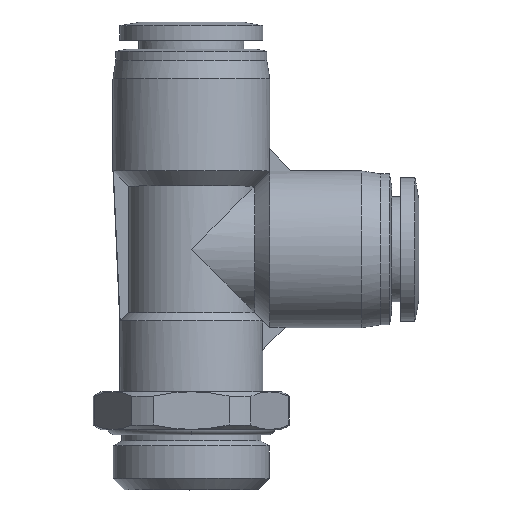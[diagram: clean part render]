
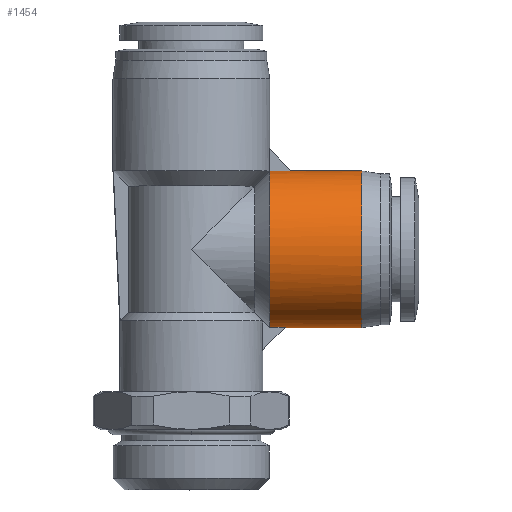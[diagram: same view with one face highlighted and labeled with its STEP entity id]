
A CAD part, top view. The second image highlights one B-rep face of the part: STEP entity #1454.
In plain terms, the highlighted cylindrical face has radius 10.4 mm (diameter 20.8 mm), a partial arc.
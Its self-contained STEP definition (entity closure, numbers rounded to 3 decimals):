
#115 = CARTESIAN_POINT ( 'NONE',  ( 13.348, 29.252, 1. ) ) ;
#252 = CARTESIAN_POINT ( 'NONE',  ( 13.348, 29.252, 1. ) ) ;
#346 = CARTESIAN_POINT ( 'NONE',  ( 22.6, 29.3, 0. ) ) ;
#455 = CARTESIAN_POINT ( 'NONE',  ( 22.6, 21.622, 10.129 ) ) ;
#480 = CARTESIAN_POINT ( 'NONE',  ( 12.416, 8.516, 0.667 ) ) ;
#486 = CARTESIAN_POINT ( 'NONE',  ( 22.6, 24.138, 9.087 ) ) ;
#533 = CARTESIAN_POINT ( 'NONE',  ( 12.448, 8.548, 1. ) ) ;
#603 = CARTESIAN_POINT ( 'NONE',  ( 16.5, 29.3, 0. ) ) ;
#643 = VECTOR ( 'NONE', #4381, 1000. ) ;
#752 = CARTESIAN_POINT ( 'NONE',  ( 11.383, 29.252, 1. ) ) ;
#914 = CARTESIAN_POINT ( 'NONE',  ( 13.316, 29.284, 0.667 ) ) ;
#916 = CARTESIAN_POINT ( 'NONE',  ( 22.6, 13.662, 9.087 ) ) ;
#941 = CARTESIAN_POINT ( 'NONE',  ( 12.4, 8.5, 0. ) ) ;
#947 = CARTESIAN_POINT ( 'NONE',  ( 13.348, 29.252, 1. ) ) ;
#1140 = ORIENTED_EDGE ( 'NONE', *, *, #2922, .T. ) ;
#1142 = CARTESIAN_POINT ( 'NONE',  ( 10.4, 8.548, 1. ) ) ;
#1150 = CARTESIAN_POINT ( 'NONE',  ( 12.365, 29.252, 1. ) ) ;
#1169 = EDGE_CURVE ( 'NONE', #1504, #4308, #1500, .T. ) ;
#1181 = B_SPLINE_CURVE_WITH_KNOTS ( 'NONE', 3,
 ( #941, #3289, #480, #4258 ),
 .UNSPECIFIED., .F., .F.,
 ( 4, 4 ),
 ( 0.5, 1. ),
 .UNSPECIFIED. ) ;
#1299 = CARTESIAN_POINT ( 'NONE',  ( 10.4, 29.252, 1. ) ) ;
#1426 = CARTESIAN_POINT ( 'NONE',  ( 10.4, 13.96, 9.241 ) ) ;
#1454 = ADVANCED_FACE ( 'NONE', ( #2358 ), #5553, .T. ) ;
#1500 = B_SPLINE_CURVE_WITH_KNOTS ( 'NONE', 3,
 ( #533, #4313, #5524, #1142 ),
 .UNSPECIFIED., .F., .F.,
 ( 4, 4 ),
 ( 0., 1. ),
 .UNSPECIFIED. ) ;
#1504 = VERTEX_POINT ( 'NONE', #3395 ) ;
#1645 = CARTESIAN_POINT ( 'NONE',  ( 22.6, 8.5, 0. ) ) ;
#1848 = CARTESIAN_POINT ( 'NONE',  ( 13.3, 29.3, 0.334 ) ) ;
#1852 = CARTESIAN_POINT ( 'NONE',  ( 12.4, 8.5, 0. ) ) ;
#2118 = AXIS2_PLACEMENT_3D ( 'NONE', #2296, #4245, #6140 ) ;
#2147 = CARTESIAN_POINT ( 'NONE',  ( 10.4, 24.945, 8.558 ) ) ;
#2296 = CARTESIAN_POINT ( 'NONE',  ( 16.5, 18.9, 0. ) ) ;
#2300 = VERTEX_POINT ( 'NONE', #1852 ) ;
#2358 = FACE_OUTER_BOUND ( 'NONE', #2665, .T. ) ;
#2379 = CARTESIAN_POINT ( 'NONE',  ( 22.6, 16.178, 10.129 ) ) ;
#2494 = EDGE_CURVE ( 'NONE', #2300, #5806, #3197, .T. ) ;
#2653 = CARTESIAN_POINT ( 'NONE',  ( 16.5, 8.5, 0. ) ) ;
#2661 = EDGE_CURVE ( 'NONE', #2300, #1504, #1181, .T. ) ;
#2665 = EDGE_LOOP ( 'NONE', ( #5519, #6046, #3306, #4883, #2790, #4774, #1140, #3215 ) ) ;
#2778 = CARTESIAN_POINT ( 'NONE',  ( 22.6, 8.771, 2.722 ) ) ;
#2790 = ORIENTED_EDGE ( 'NONE', *, *, #4371, .T. ) ;
#2801 = EDGE_CURVE ( 'NONE', #5019, #5150, #4350, .T. ) ;
#2826 = VERTEX_POINT ( 'NONE', #4474 ) ;
#2842 = CARTESIAN_POINT ( 'NONE',  ( 22.6, 25.291, 8.317 ) ) ;
#2867 = CARTESIAN_POINT ( 'NONE',  ( 22.6, 20.261, 10.4 ) ) ;
#2922 = EDGE_CURVE ( 'NONE', #2826, #4308, #5627, .T. ) ;
#3077 = DIRECTION ( 'NONE',  ( 1., 0., 0. ) ) ;
#3103 = CARTESIAN_POINT ( 'NONE',  ( 13.3, 29.3, 0. ) ) ;
#3108 = VECTOR ( 'NONE', #3077, 1000. ) ;
#3192 = CARTESIAN_POINT ( 'NONE',  ( 10.4, 29.129, 2.272 ) ) ;
#3197 = LINE ( 'NONE', #2653, #3108 ) ;
#3215 = ORIENTED_EDGE ( 'NONE', *, *, #1169, .F. ) ;
#3233 = CARTESIAN_POINT ( 'NONE',  ( 22.6, 27.217, 6.391 ) ) ;
#3262 = CARTESIAN_POINT ( 'NONE',  ( 13.3, 29.3, 0. ) ) ;
#3289 = CARTESIAN_POINT ( 'NONE',  ( 12.4, 8.5, 0.333 ) ) ;
#3306 = ORIENTED_EDGE ( 'NONE', *, *, #4664, .F. ) ;
#3343 = CARTESIAN_POINT ( 'NONE',  ( 10.4, 8.548, 1. ) ) ;
#3395 = CARTESIAN_POINT ( 'NONE',  ( 12.448, 8.548, 1. ) ) ;
#3397 = VERTEX_POINT ( 'NONE', #115 ) ;
#3536 = CARTESIAN_POINT ( 'NONE',  ( 10.4, 23.84, 9.241 ) ) ;
#3670 = CARTESIAN_POINT ( 'NONE',  ( 22.6, 27.987, 5.238 ) ) ;
#3719 = CARTESIAN_POINT ( 'NONE',  ( 10.4, 17.622, 10.4 ) ) ;
#3733 = CARTESIAN_POINT ( 'NONE',  ( 22.6, 10.583, 6.391 ) ) ;
#3751 = CARTESIAN_POINT ( 'NONE',  ( 10.4, 10.177, 5.805 ) ) ;
#3763 = CARTESIAN_POINT ( 'NONE',  ( 22.6, 8.5, 0. ) ) ;
#3968 = CARTESIAN_POINT ( 'NONE',  ( 10.4, 29.252, 1. ) ) ;
#4006 = CARTESIAN_POINT ( 'NONE',  ( 10.4, 28.769, 3.521 ) ) ;
#4012 = EDGE_CURVE ( 'NONE', #2826, #3397, #4654, .T. ) ;
#4036 = CARTESIAN_POINT ( 'NONE',  ( 10.4, 21.455, 10.162 ) ) ;
#4174 = CARTESIAN_POINT ( 'NONE',  ( 22.6, 29.3, 1.361 ) ) ;
#4193 = CARTESIAN_POINT ( 'NONE',  ( 10.4, 20.178, 10.4 ) ) ;
#4236 = CARTESIAN_POINT ( 'NONE',  ( 22.6, 8.5, 1.361 ) ) ;
#4245 = DIRECTION ( 'NONE',  ( 1., 0., 0. ) ) ;
#4258 = CARTESIAN_POINT ( 'NONE',  ( 12.448, 8.548, 1. ) ) ;
#4266 = CARTESIAN_POINT ( 'NONE',  ( 22.6, 9.813, 5.238 ) ) ;
#4308 = VERTEX_POINT ( 'NONE', #5200 ) ;
#4313 = CARTESIAN_POINT ( 'NONE',  ( 11.765, 8.548, 1. ) ) ;
#4350 = LINE ( 'NONE', #603, #643 ) ;
#4371 = EDGE_CURVE ( 'NONE', #5019, #3397, #5625, .T. ) ;
#4381 = DIRECTION ( 'NONE',  ( 1., 0., 0. ) ) ;
#4438 = B_SPLINE_CURVE_WITH_KNOTS ( 'NONE', 3,
 ( #4705, #4174, #5231, #3670, #3233, #2842, #486, #455, #2867, #5703, #2379, #916, #6071, #3733, #4266, #2778, #4236, #3763 ),
 .UNSPECIFIED., .F., .F.,
 ( 4, 2, 2, 2, 2, 2, 2, 2, 4 ),
 ( 0., 0.063, 0.125, 0.187, 0.25, 0.312, 0.375, 0.437, 0.5 ),
 .UNSPECIFIED. ) ;
#4474 = CARTESIAN_POINT ( 'NONE',  ( 10.4, 29.252, 1. ) ) ;
#4507 = CARTESIAN_POINT ( 'NONE',  ( 10.4, 26.837, 6.84 ) ) ;
#4654 = B_SPLINE_CURVE_WITH_KNOTS ( 'NONE', 3,
 ( #3968, #752, #1150, #252 ),
 .UNSPECIFIED., .F., .F.,
 ( 4, 4 ),
 ( 0., 1. ),
 .UNSPECIFIED. ) ;
#4657 = CARTESIAN_POINT ( 'NONE',  ( 10.4, 16.345, 10.162 ) ) ;
#4664 = EDGE_CURVE ( 'NONE', #5150, #5806, #4438, .T. ) ;
#4705 = CARTESIAN_POINT ( 'NONE',  ( 22.6, 29.3, 0. ) ) ;
#4753 = CARTESIAN_POINT ( 'NONE',  ( 10.4, 9.031, 3.521 ) ) ;
#4774 = ORIENTED_EDGE ( 'NONE', *, *, #4012, .F. ) ;
#4883 = ORIENTED_EDGE ( 'NONE', *, *, #2801, .F. ) ;
#5019 = VERTEX_POINT ( 'NONE', #3103 ) ;
#5129 = CARTESIAN_POINT ( 'NONE',  ( 10.4, 12.855, 8.558 ) ) ;
#5150 = VERTEX_POINT ( 'NONE', #346 ) ;
#5200 = CARTESIAN_POINT ( 'NONE',  ( 10.4, 8.548, 1. ) ) ;
#5231 = CARTESIAN_POINT ( 'NONE',  ( 22.6, 29.029, 2.722 ) ) ;
#5519 = ORIENTED_EDGE ( 'NONE', *, *, #2661, .F. ) ;
#5524 = CARTESIAN_POINT ( 'NONE',  ( 11.083, 8.548, 1. ) ) ;
#5553 = CYLINDRICAL_SURFACE ( 'NONE', #2118, 10.4 ) ;
#5625 = B_SPLINE_CURVE_WITH_KNOTS ( 'NONE', 3,
 ( #3262, #1848, #914, #947 ),
 .UNSPECIFIED., .F., .F.,
 ( 4, 4 ),
 ( 0.5, 1. ),
 .UNSPECIFIED. ) ;
#5627 = B_SPLINE_CURVE_WITH_KNOTS ( 'NONE', 3,
 ( #1299, #3192, #4006, #5905, #4507, #2147, #3536, #4036, #4193, #3719, #4657, #1426, #5129, #5687, #3751, #4753, #5717, #3343 ),
 .UNSPECIFIED., .F., .F.,
 ( 4, 2, 2, 2, 2, 2, 2, 2, 4 ),
 ( 0., 0.125, 0.25, 0.375, 0.5, 0.625, 0.75, 0.875, 1. ),
 .UNSPECIFIED. ) ;
#5687 = CARTESIAN_POINT ( 'NONE',  ( 10.4, 10.963, 6.84 ) ) ;
#5703 = CARTESIAN_POINT ( 'NONE',  ( 22.6, 17.539, 10.4 ) ) ;
#5717 = CARTESIAN_POINT ( 'NONE',  ( 10.4, 8.671, 2.272 ) ) ;
#5806 = VERTEX_POINT ( 'NONE', #1645 ) ;
#5905 = CARTESIAN_POINT ( 'NONE',  ( 10.4, 27.623, 5.805 ) ) ;
#6046 = ORIENTED_EDGE ( 'NONE', *, *, #2494, .T. ) ;
#6071 = CARTESIAN_POINT ( 'NONE',  ( 22.6, 12.509, 8.317 ) ) ;
#6140 = DIRECTION ( 'NONE',  ( 0., 1., 0. ) ) ;
